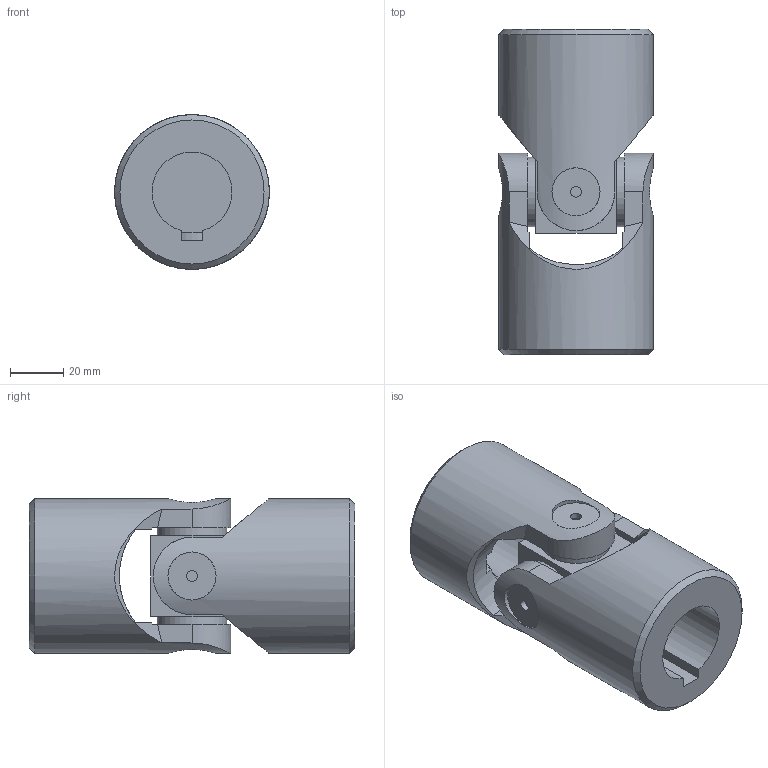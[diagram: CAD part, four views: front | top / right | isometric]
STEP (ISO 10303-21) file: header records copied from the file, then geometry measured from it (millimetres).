
FILE_DESCRIPTION(/* description */ (''),/* implementation_level */ '2;1');
FILE_NAME(/* name */ '\\SRV2016\Societa\Stefano\Disegni 3D\Dis. Clienti\0000Catalogo 3D\01Singoli G-GB\6G-2C_SG0S302C.stp',/* time_stamp */ '2021-11-10T11:15:18+01:00',/* author */ ('acquisti'),/* organization */ (''),/* preprocessor_version */ 'ST-DEVELOPER v15.6',/* originating_system */ 'Autodesk Inventor 2015',/* authorisation */ '');
FILE_SCHEMA (('AUTOMOTIVE_DESIGN { 1 0 10303 214 3 1 1 }'));
Length unit declared in the file: millimetre
Products named in the file (3): 6G SFE; 6G MOC; Assieme1
Assembly tree (3 placements, depth 2):
  Assieme1
    6G SFE
    6G MOC  x2
Bounding box: 58 x 122 x 58 mm (x, y, z)
Volume: 210014.1 mm3; surface area: 44912.1 mm2
Topology: 3 solids, 3 shells, 78 faces, 192 edges, 130 vertices
Faces by surface type: plane 42, cylinder 22, cone 12, torus 2
Full cylindrical faces by diameter (mm): 4 x4, 18 x4, 26 x4, 58 x2
Entity records: 1551 total; most frequent: CARTESIAN_POINT 494, DIRECTION 203, ORIENTED_EDGE 194, EDGE_CURVE 97, AXIS2_PLACEMENT_3D 85, VERTEX_POINT 73, EDGE_LOOP 66, FACE_OUTER_BOUND 46
